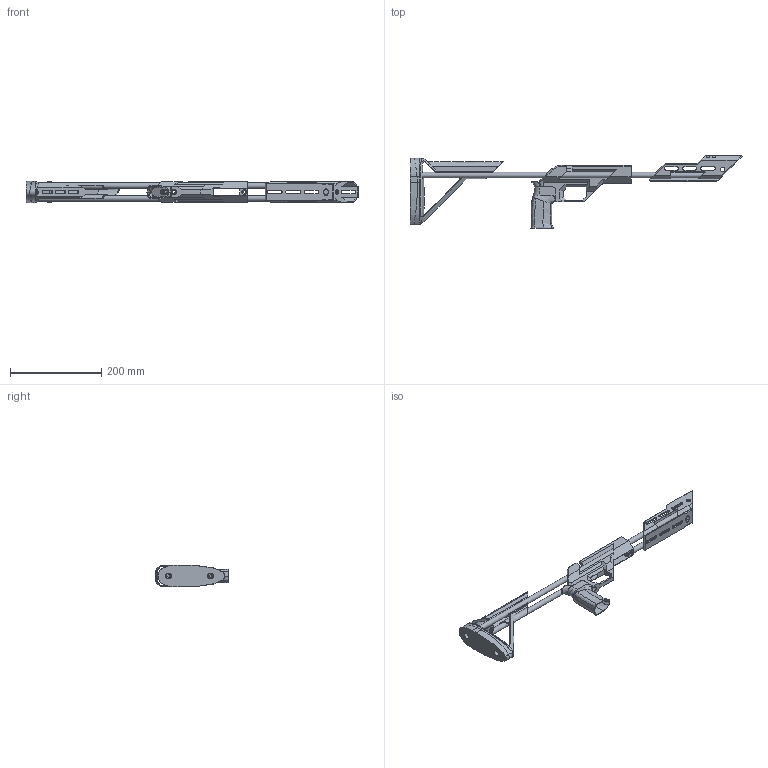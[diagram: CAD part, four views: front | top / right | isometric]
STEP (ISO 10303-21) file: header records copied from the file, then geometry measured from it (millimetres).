
FILE_DESCRIPTION(/* description */ ('CZ 455 Light Gray'),/* implementation_level */ '2;1');
FILE_NAME(/* name */ 'Stormskata CZ455 v0.5',/* time_stamp */ '2025-02-15T14:36:27+01:00',/* author */ ('ElleMan'),/* organization */ ('FeelGood.inc'),/* preprocessor_version */ 'ST-DEVELOPER v20',/* originating_system */ 'Solid Edge',/* authorisation */ 'Unknown');
FILE_SCHEMA (('AUTOMOTIVE_DESIGN {1 0 10303 214 3 1 1}'));
Products named in the file (10): Stormskata CZ455 v0.5; CZ 455 Lower v0.5; FrontStock  v0.5; Carbon Fiber Tube v0.4; M6 x 12; M6 x 20; MonoStock v0.5; New Grip v0.5; Cerv001_print v0.5; Cerv001_print v0.5.1
Assembly tree (11 placements, depth 2):
  Stormskata CZ455 v0.5
    CZ 455 Lower v0.5
    FrontStock  v0.5
    Carbon Fiber Tube v0.4  x2
    M6 x 12  x2
    M6 x 20
    MonoStock v0.5
    New Grip v0.5
    Cerv001_print v0.5
    Cerv001_print v0.5.1
Bounding box: 725.94 x 158 x 48 mm (x, y, z)
Volume: 584539.6 mm3; surface area: 315750.9 mm2
Topology: 11 solids, 11 shells, 691 faces, 1974 edges, 1290 vertices
Faces by surface type: plane 365, cylinder 154, bspline 130, cone 27, torus 11, sphere 4
Full cylindrical faces by diameter (mm): 4.917 x3, 5.3 x1, 6 x7, 6.3 x2, 9.6 x8, 10 x6, 11 x2, 12 x11, 12.5 x1, 13 x2
Entity records: 48248 total; most frequent: CARTESIAN_POINT 29113, ORIENTED_EDGE 3698, DIRECTION 2748, EDGE_CURVE 1849, VERTEX_POINT 1235, LINE 988, VECTOR 988, AXIS2_PLACEMENT_3D 880
